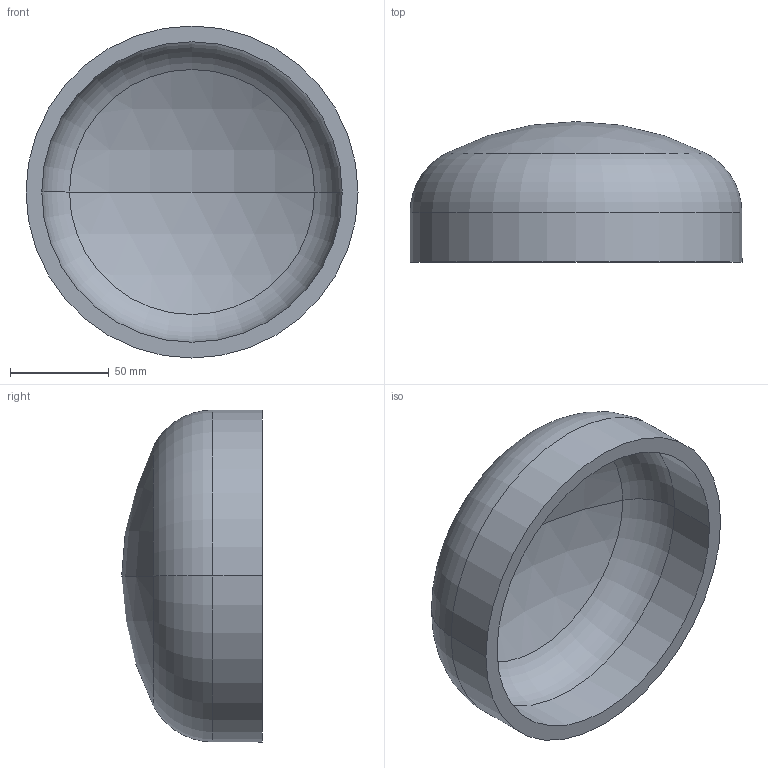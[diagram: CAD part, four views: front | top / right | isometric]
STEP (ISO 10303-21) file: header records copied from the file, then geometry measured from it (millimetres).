
FILE_DESCRIPTION (( 'STEP AP203' ), '1' );
FILE_NAME ('DIN 28013 Korbbogenform_-_Boden DIN 28013 - 168,3 x 25 - I - s=8.step', '2016-07-01T07:41:28', ( '' ), ( '' ), 'SwSTEP 2.0', 'SolidWorks 2013', '' );
FILE_SCHEMA (( 'CONFIG_CONTROL_DESIGN' ));
Length unit declared in the file: millimetre
Products named in the file (1): DIN 28013 Korbbogenform_-_Boden DIN 28013 - 168,3 x 25 - I - s=8
Bounding box: 168.3 x 71.22 x 168.3 mm (x, y, z)
Volume: 332685.4 mm3; surface area: 87334.2 mm2
Topology: 1 solids, 1 shells, 13 faces, 24 edges, 14 vertices
Faces by surface type: torus 4, cylinder 4, sphere 4, plane 1
Entity records: 407 total; most frequent: DIRECTION 72, CARTESIAN_POINT 52, ORIENTED_EDGE 48, AXIS2_PLACEMENT_3D 34, EDGE_CURVE 24, CIRCLE 20, VERTEX_POINT 14, EDGE_LOOP 14
